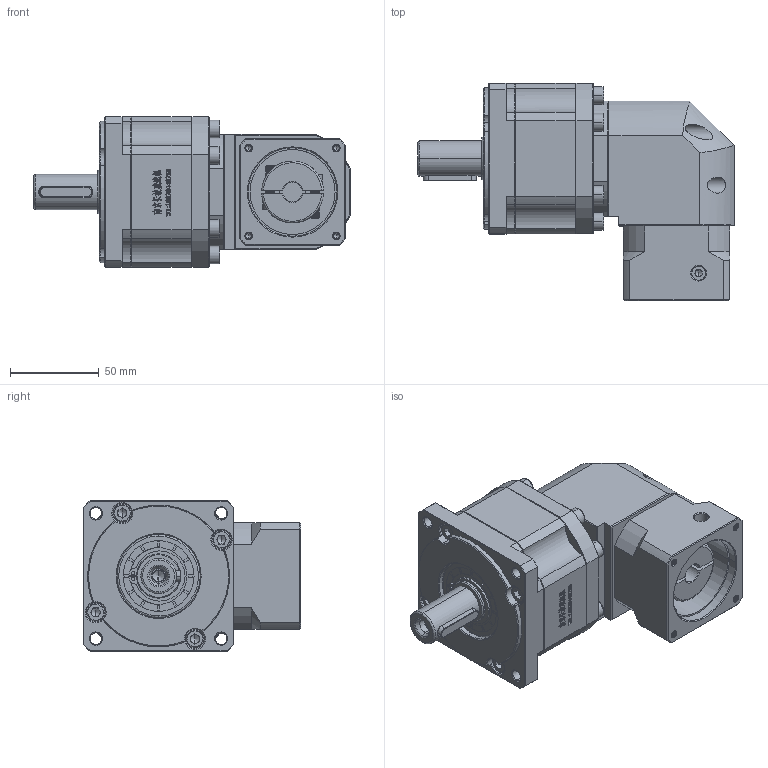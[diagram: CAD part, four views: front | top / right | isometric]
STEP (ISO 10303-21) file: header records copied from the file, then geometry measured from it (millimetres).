
FILE_DESCRIPTION (( 'STEP AP214' ), '1' );
FILE_NAME ('ZBR90-D20-L2-11-50-70-M4.step', '2022-05-07T15:14:46', ( '' ), ( 'Microsoft' ), 'SwSTEP 2.0', 'SolidWorks 2016', '' );
FILE_SCHEMA (( 'AUTOMOTIVE_DESIGN' ));
Length unit declared in the file: millimetre
Products named in the file (1): ZBR90-D20-L2-11-50-70-M4
Bounding box: 178.5 x 122.7 x 85 mm (x, y, z)
Volume: 800156.7 mm3; surface area: 99193.5 mm2
Topology: 5 solids, 5 shells, 3032 faces, 8140 edges, 5252 vertices
Faces by surface type: plane 1598, bspline 608, cylinder 437, cone 369, torus 20
Entity records: 161057 total; most frequent: CARTESIAN_POINT 56366, ORIENTED_EDGE 16188, DIRECTION 12496, EDGE_CURVE 8094, VECTOR 5330, LINE 5330, VERTEX_POINT 5252, AXIS2_PLACEMENT_3D 3583
